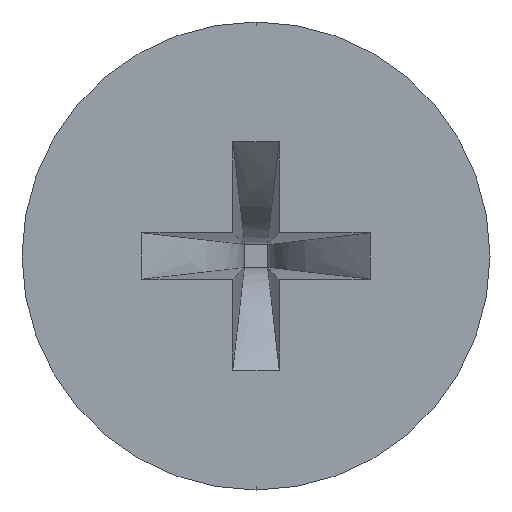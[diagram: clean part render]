
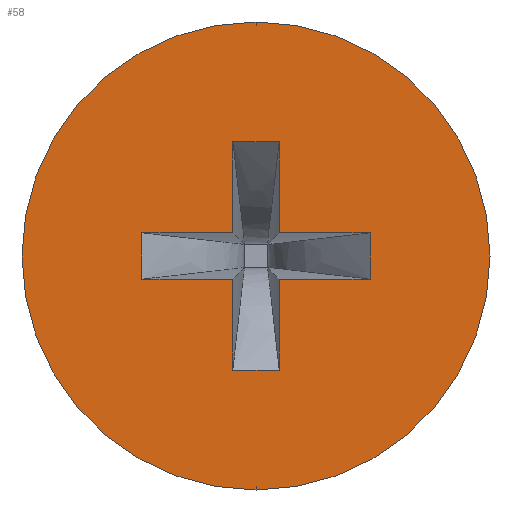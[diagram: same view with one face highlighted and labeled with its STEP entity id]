
A CAD part, left-side view. The second image highlights one B-rep face of the part: STEP entity #58.
In plain terms, the highlighted planar face has unit normal (-1, 0, 0).
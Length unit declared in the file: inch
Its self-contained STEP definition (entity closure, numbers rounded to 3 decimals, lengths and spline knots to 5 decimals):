
#2 = CARTESIAN_POINT ( 'NONE',  ( 0., -0.0165, 0.081 ) ) ;
#3 = LINE ( 'NONE', #2, #152 ) ;
#4 = CARTESIAN_POINT ( 'NONE',  ( 0., -0.0165, 0.081 ) ) ;
#5 = DIRECTION ( 'NONE',  ( 0., -1., 0. ) ) ;
#6 = VECTOR ( 'NONE', #5, 39.37008 ) ;
#7 = CARTESIAN_POINT ( 'NONE',  ( 0., 0.0165, 0.081 ) ) ;
#8 = LINE ( 'NONE', #7, #6 ) ;
#9 = CARTESIAN_POINT ( 'NONE',  ( 0., 0.0165, 0.081 ) ) ;
#10 = DIRECTION ( 'NONE',  ( 0., 0., 1. ) ) ;
#11 = VECTOR ( 'NONE', #10, 39.37008 ) ;
#12 = CARTESIAN_POINT ( 'NONE',  ( 0., 0.0165, -0.081 ) ) ;
#13 = LINE ( 'NONE', #12, #11 ) ;
#25 = DIRECTION ( 'NONE',  ( 0., 0., 1. ) ) ;
#26 = VECTOR ( 'NONE', #25, 39.37008 ) ;
#27 = CARTESIAN_POINT ( 'NONE',  ( 0., 0.081, -0.0165 ) ) ;
#28 = LINE ( 'NONE', #27, #26 ) ;
#33 = EDGE_CURVE ( 'NONE', #34, #35, #72, .T. ) ;
#34 = VERTEX_POINT ( 'NONE', #74 ) ;
#35 = VERTEX_POINT ( 'NONE', #73 ) ;
#36 = EDGE_CURVE ( 'NONE', #35, #52, #28, .T. ) ;
#37 = ORIENTED_EDGE ( 'NONE', *, *, #57, .T. ) ;
#38 = ORIENTED_EDGE ( 'NONE', *, *, #39, .T. ) ;
#39 = EDGE_CURVE ( 'NONE', #55, #40, #13, .T. ) ;
#40 = VERTEX_POINT ( 'NONE', #9 ) ;
#41 = ORIENTED_EDGE ( 'NONE', *, *, #42, .T. ) ;
#42 = EDGE_CURVE ( 'NONE', #40, #43, #8, .T. ) ;
#43 = VERTEX_POINT ( 'NONE', #4 ) ;
#44 = ORIENTED_EDGE ( 'NONE', *, *, #45, .T. ) ;
#45 = EDGE_CURVE ( 'NONE', #43, #46, #3, .T. ) ;
#46 = VERTEX_POINT ( 'NONE', #150 ) ;
#47 = ORIENTED_EDGE ( 'NONE', *, *, #48, .T. ) ;
#48 = EDGE_CURVE ( 'NONE', #46, #49, #149, .T. ) ;
#49 = VERTEX_POINT ( 'NONE', #145 ) ;
#50 = VERTEX_POINT ( 'NONE', #144 ) ;
#52 = VERTEX_POINT ( 'NONE', #142 ) ;
#55 = VERTEX_POINT ( 'NONE', #381 ) ;
#57 = EDGE_CURVE ( 'NONE', #52, #55, #380, .T. ) ;
#58 = ADVANCED_FACE ( 'NONE', ( #376, #375 ), #374, .T. ) ;
#59 = EDGE_LOOP ( 'NONE', ( #60, #63, #64, #37, #38, #41, #44, #47, #238, #240, #117, #120 ) ) ;
#60 = ORIENTED_EDGE ( 'NONE', *, *, #61, .T. ) ;
#61 = EDGE_CURVE ( 'NONE', #62, #34, #369, .T. ) ;
#62 = VERTEX_POINT ( 'NONE', #365 ) ;
#63 = ORIENTED_EDGE ( 'NONE', *, *, #33, .T. ) ;
#64 = ORIENTED_EDGE ( 'NONE', *, *, #36, .T. ) ;
#71 = DIRECTION ( 'NONE',  ( 0., 1., 0. ) ) ;
#72 = LINE ( 'NONE', #76, #75 ) ;
#73 = CARTESIAN_POINT ( 'NONE',  ( 0., 0.081, -0.0165 ) ) ;
#74 = CARTESIAN_POINT ( 'NONE',  ( 0., 0.0165, -0.0165 ) ) ;
#75 = VECTOR ( 'NONE', #71, 39.37008 ) ;
#76 = CARTESIAN_POINT ( 'NONE',  ( 0., -0.081, -0.0165 ) ) ;
#117 = ORIENTED_EDGE ( 'NONE', *, *, #118, .T. ) ;
#118 = EDGE_CURVE ( 'NONE', #181, #119, #349, .T. ) ;
#119 = VERTEX_POINT ( 'NONE', #433 ) ;
#120 = ORIENTED_EDGE ( 'NONE', *, *, #121, .T. ) ;
#121 = EDGE_CURVE ( 'NONE', #119, #62, #423, .T. ) ;
#124 = VERTEX_POINT ( 'NONE', #278 ) ;
#126 = EDGE_CURVE ( 'NONE', #127, #124, #277, .T. ) ;
#127 = VERTEX_POINT ( 'NONE', #272 ) ;
#142 = CARTESIAN_POINT ( 'NONE',  ( 0., 0.081, 0.0165 ) ) ;
#144 = CARTESIAN_POINT ( 'NONE',  ( 0., -0.081, -0.0165 ) ) ;
#145 = CARTESIAN_POINT ( 'NONE',  ( 0., -0.081, 0.0165 ) ) ;
#146 = DIRECTION ( 'NONE',  ( 0., -1., 0. ) ) ;
#147 = VECTOR ( 'NONE', #146, 39.37008 ) ;
#148 = CARTESIAN_POINT ( 'NONE',  ( 0., 0.081, 0.0165 ) ) ;
#149 = LINE ( 'NONE', #148, #147 ) ;
#150 = CARTESIAN_POINT ( 'NONE',  ( 0., -0.0165, 0.0165 ) ) ;
#151 = DIRECTION ( 'NONE',  ( 0., 0., -1. ) ) ;
#152 = VECTOR ( 'NONE', #151, 39.37008 ) ;
#169 = EDGE_LOOP ( 'NONE', ( #170, #171 ) ) ;
#170 = ORIENTED_EDGE ( 'NONE', *, *, #126, .T. ) ;
#171 = ORIENTED_EDGE ( 'NONE', *, *, #172, .T. ) ;
#172 = EDGE_CURVE ( 'NONE', #124, #127, #252, .T. ) ;
#181 = VERTEX_POINT ( 'NONE', #401 ) ;
#238 = ORIENTED_EDGE ( 'NONE', *, *, #239, .T. ) ;
#239 = EDGE_CURVE ( 'NONE', #49, #50, #679, .T. ) ;
#240 = ORIENTED_EDGE ( 'NONE', *, *, #241, .T. ) ;
#241 = EDGE_CURVE ( 'NONE', #50, #181, #614, .T. ) ;
#248 = DIRECTION ( 'NONE',  ( 0., 0., 1. ) ) ;
#249 = DIRECTION ( 'NONE',  ( -1., 0., 0. ) ) ;
#250 = CARTESIAN_POINT ( 'NONE',  ( 0., 0., 0. ) ) ;
#251 = AXIS2_PLACEMENT_3D ( 'NONE', #250, #249, #248 ) ;
#252 = CIRCLE ( 'NONE', #251, 0.166 ) ;
#272 = CARTESIAN_POINT ( 'NONE',  ( 0., 0., 0.166 ) ) ;
#273 = DIRECTION ( 'NONE',  ( 0., 0., 1. ) ) ;
#274 = DIRECTION ( 'NONE',  ( -1., 0., 0. ) ) ;
#275 = CARTESIAN_POINT ( 'NONE',  ( 0., 0., 0. ) ) ;
#276 = AXIS2_PLACEMENT_3D ( 'NONE', #275, #274, #273 ) ;
#277 = CIRCLE ( 'NONE', #276, 0.166 ) ;
#278 = CARTESIAN_POINT ( 'NONE',  ( 0., 0., -0.166 ) ) ;
#335 = VECTOR ( 'NONE', #434, 39.37008 ) ;
#346 = DIRECTION ( 'NONE',  ( 0., 1., 0. ) ) ;
#348 = CARTESIAN_POINT ( 'NONE',  ( 0., -0.0165, 0.081 ) ) ;
#349 = LINE ( 'NONE', #348, #335 ) ;
#365 = CARTESIAN_POINT ( 'NONE',  ( 0., 0.0165, -0.081 ) ) ;
#366 = DIRECTION ( 'NONE',  ( 0., 0., 1. ) ) ;
#367 = VECTOR ( 'NONE', #366, 39.37008 ) ;
#368 = CARTESIAN_POINT ( 'NONE',  ( 0., 0.0165, -0.081 ) ) ;
#369 = LINE ( 'NONE', #368, #367 ) ;
#370 = DIRECTION ( 'NONE',  ( 0., 0., 1. ) ) ;
#371 = DIRECTION ( 'NONE',  ( -1., 0., 0. ) ) ;
#372 = CARTESIAN_POINT ( 'NONE',  ( 0., 0., 0. ) ) ;
#373 = AXIS2_PLACEMENT_3D ( 'NONE', #372, #371, #370 ) ;
#374 = PLANE ( 'NONE',  #373 ) ;
#375 = FACE_OUTER_BOUND ( 'NONE', #169, .T. ) ;
#376 = FACE_BOUND ( 'NONE', #59, .T. ) ;
#377 = DIRECTION ( 'NONE',  ( 0., -1., 0. ) ) ;
#378 = VECTOR ( 'NONE', #377, 39.37008 ) ;
#379 = CARTESIAN_POINT ( 'NONE',  ( 0., 0.081, 0.0165 ) ) ;
#380 = LINE ( 'NONE', #379, #378 ) ;
#381 = CARTESIAN_POINT ( 'NONE',  ( 0., 0.0165, 0.0165 ) ) ;
#401 = CARTESIAN_POINT ( 'NONE',  ( 0., -0.0165, -0.0165 ) ) ;
#421 = VECTOR ( 'NONE', #346, 39.37008 ) ;
#422 = CARTESIAN_POINT ( 'NONE',  ( 0., -0.0165, -0.081 ) ) ;
#423 = LINE ( 'NONE', #422, #421 ) ;
#433 = CARTESIAN_POINT ( 'NONE',  ( 0., -0.0165, -0.081 ) ) ;
#434 = DIRECTION ( 'NONE',  ( 0., 0., -1. ) ) ;
#609 = DIRECTION ( 'NONE',  ( 0., 1., 0. ) ) ;
#610 = VECTOR ( 'NONE', #609, 39.37008 ) ;
#611 = CARTESIAN_POINT ( 'NONE',  ( 0., -0.081, -0.0165 ) ) ;
#612 = DIRECTION ( 'NONE',  ( 0., 0., -1. ) ) ;
#613 = VECTOR ( 'NONE', #612, 39.37008 ) ;
#614 = LINE ( 'NONE', #611, #610 ) ;
#678 = CARTESIAN_POINT ( 'NONE',  ( 0., -0.081, 0.0165 ) ) ;
#679 = LINE ( 'NONE', #678, #613 ) ;
